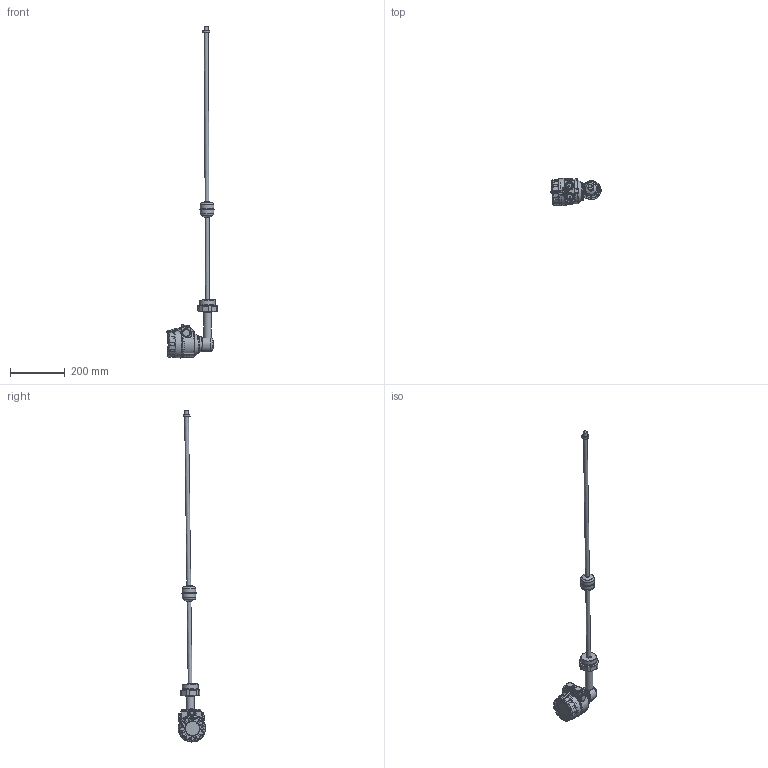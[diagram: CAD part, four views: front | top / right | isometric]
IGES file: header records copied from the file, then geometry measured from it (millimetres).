
Global section: file name: M_RN_Bszer_2col; native system: Autodesk Inventor 2015; preprocessor: unknown; author: aantal; date: 20150306.112358; units: millimetre
Bounding box: 183.5 x 99.77 x 1215.14 mm (x, y, z)
Volume: 1406267.3 mm3; surface area: 193989.2 mm2
Topology: 18 solids, 20 shells, 1142 faces, 2801 edges, 1700 vertices
Faces by surface type: bspline 1142
